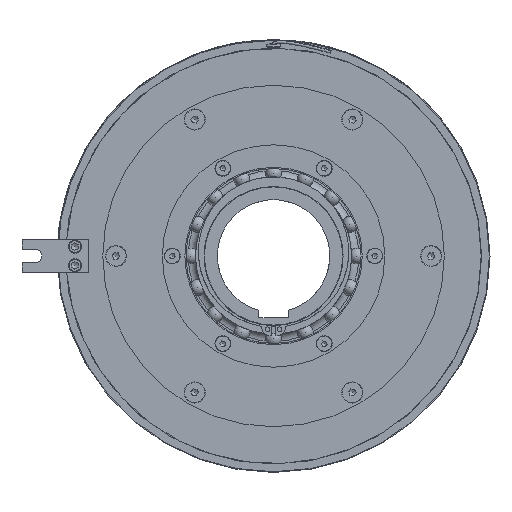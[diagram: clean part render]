
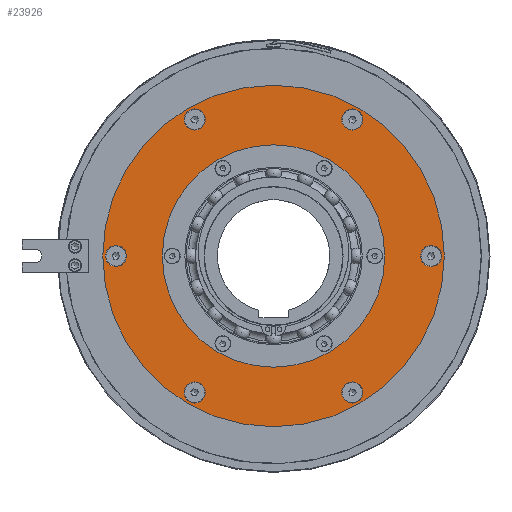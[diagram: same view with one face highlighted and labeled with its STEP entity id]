
A CAD part, left-side view. The second image highlights one B-rep face of the part: STEP entity #23926.
In plain terms, the highlighted planar face has unit normal (-1, 0, 0).
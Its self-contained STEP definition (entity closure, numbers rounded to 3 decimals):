
#791=FACE_BOUND('',#3698,.T.);
#792=FACE_BOUND('',#3699,.T.);
#793=FACE_BOUND('',#3700,.T.);
#794=FACE_BOUND('',#3701,.T.);
#795=FACE_BOUND('',#3702,.T.);
#796=FACE_BOUND('',#3703,.T.);
#797=FACE_BOUND('',#3704,.T.);
#1135=PLANE('',#25994);
#2245=FACE_OUTER_BOUND('',#3697,.T.);
#3697=EDGE_LOOP('',(#18370,#18371));
#3698=EDGE_LOOP('',(#18372,#18373));
#3699=EDGE_LOOP('',(#18374,#18375));
#3700=EDGE_LOOP('',(#18376,#18377));
#3701=EDGE_LOOP('',(#18378,#18379));
#3702=EDGE_LOOP('',(#18380,#18381));
#3703=EDGE_LOOP('',(#18382,#18383));
#3704=EDGE_LOOP('',(#18384,#18385));
#7336=CIRCLE('',#24999,84.);
#7337=CIRCLE('',#25000,84.);
#7958=CIRCLE('',#25992,129.);
#7959=CIRCLE('',#25993,129.);
#7960=CIRCLE('',#25995,8.);
#7961=CIRCLE('',#25996,8.);
#7962=CIRCLE('',#25997,8.);
#7963=CIRCLE('',#25998,8.);
#7964=CIRCLE('',#25999,8.);
#7965=CIRCLE('',#26000,8.);
#7966=CIRCLE('',#26001,8.);
#7967=CIRCLE('',#26002,8.);
#7968=CIRCLE('',#26003,8.);
#7969=CIRCLE('',#26004,8.);
#7970=CIRCLE('',#26005,8.);
#7971=CIRCLE('',#26006,8.);
#9238=VERTEX_POINT('',#36569);
#9239=VERTEX_POINT('',#36571);
#10118=VERTEX_POINT('',#42508);
#10119=VERTEX_POINT('',#42510);
#10120=VERTEX_POINT('',#42514);
#10121=VERTEX_POINT('',#42515);
#10122=VERTEX_POINT('',#42518);
#10123=VERTEX_POINT('',#42519);
#10124=VERTEX_POINT('',#42522);
#10125=VERTEX_POINT('',#42523);
#10126=VERTEX_POINT('',#42526);
#10127=VERTEX_POINT('',#42527);
#10128=VERTEX_POINT('',#42530);
#10129=VERTEX_POINT('',#42531);
#10130=VERTEX_POINT('',#42534);
#10131=VERTEX_POINT('',#42535);
#11919=EDGE_CURVE('',#9239,#9238,#7336,.T.);
#11920=EDGE_CURVE('',#9238,#9239,#7337,.T.);
#13137=EDGE_CURVE('',#10118,#10119,#7958,.T.);
#13138=EDGE_CURVE('',#10119,#10118,#7959,.T.);
#13139=EDGE_CURVE('',#10120,#10121,#7960,.T.);
#13140=EDGE_CURVE('',#10121,#10120,#7961,.T.);
#13141=EDGE_CURVE('',#10122,#10123,#7962,.T.);
#13142=EDGE_CURVE('',#10123,#10122,#7963,.T.);
#13143=EDGE_CURVE('',#10124,#10125,#7964,.T.);
#13144=EDGE_CURVE('',#10125,#10124,#7965,.T.);
#13145=EDGE_CURVE('',#10126,#10127,#7966,.T.);
#13146=EDGE_CURVE('',#10127,#10126,#7967,.T.);
#13147=EDGE_CURVE('',#10128,#10129,#7968,.T.);
#13148=EDGE_CURVE('',#10129,#10128,#7969,.T.);
#13149=EDGE_CURVE('',#10130,#10131,#7970,.T.);
#13150=EDGE_CURVE('',#10131,#10130,#7971,.T.);
#18370=ORIENTED_EDGE('',*,*,#13138,.F.);
#18371=ORIENTED_EDGE('',*,*,#13137,.F.);
#18372=ORIENTED_EDGE('',*,*,#13139,.T.);
#18373=ORIENTED_EDGE('',*,*,#13140,.T.);
#18374=ORIENTED_EDGE('',*,*,#13141,.T.);
#18375=ORIENTED_EDGE('',*,*,#13142,.T.);
#18376=ORIENTED_EDGE('',*,*,#13143,.T.);
#18377=ORIENTED_EDGE('',*,*,#13144,.T.);
#18378=ORIENTED_EDGE('',*,*,#13145,.T.);
#18379=ORIENTED_EDGE('',*,*,#13146,.T.);
#18380=ORIENTED_EDGE('',*,*,#13147,.T.);
#18381=ORIENTED_EDGE('',*,*,#13148,.T.);
#18382=ORIENTED_EDGE('',*,*,#13149,.T.);
#18383=ORIENTED_EDGE('',*,*,#13150,.T.);
#18384=ORIENTED_EDGE('',*,*,#11919,.T.);
#18385=ORIENTED_EDGE('',*,*,#11920,.T.);
#23926=ADVANCED_FACE('',(#2245,#791,#792,#793,#794,#795,#796,#797),#1135,
 .T.);
#24999=AXIS2_PLACEMENT_3D('',#36572,#28562,#28563);
#25000=AXIS2_PLACEMENT_3D('',#36573,#28564,#28565);
#25992=AXIS2_PLACEMENT_3D('',#42511,#30845,#30846);
#25993=AXIS2_PLACEMENT_3D('',#42512,#30847,#30848);
#25994=AXIS2_PLACEMENT_3D('',#42513,#30849,#30850);
#25995=AXIS2_PLACEMENT_3D('',#42516,#30851,#30852);
#25996=AXIS2_PLACEMENT_3D('',#42517,#30853,#30854);
#25997=AXIS2_PLACEMENT_3D('',#42520,#30855,#30856);
#25998=AXIS2_PLACEMENT_3D('',#42521,#30857,#30858);
#25999=AXIS2_PLACEMENT_3D('',#42524,#30859,#30860);
#26000=AXIS2_PLACEMENT_3D('',#42525,#30861,#30862);
#26001=AXIS2_PLACEMENT_3D('',#42528,#30863,#30864);
#26002=AXIS2_PLACEMENT_3D('',#42529,#30865,#30866);
#26003=AXIS2_PLACEMENT_3D('',#42532,#30867,#30868);
#26004=AXIS2_PLACEMENT_3D('',#42533,#30869,#30870);
#26005=AXIS2_PLACEMENT_3D('',#42536,#30871,#30872);
#26006=AXIS2_PLACEMENT_3D('',#42537,#30873,#30874);
#28562=DIRECTION('center_axis',(1.,0.,0.));
#28563=DIRECTION('ref_axis',(0.,1.,0.));
#28564=DIRECTION('center_axis',(1.,0.,0.));
#28565=DIRECTION('ref_axis',(0.,1.,0.));
#30845=DIRECTION('center_axis',(1.,0.,0.));
#30846=DIRECTION('ref_axis',(0.,1.,0.));
#30847=DIRECTION('center_axis',(1.,0.,0.));
#30848=DIRECTION('ref_axis',(0.,1.,0.));
#30849=DIRECTION('center_axis',(-1.,0.,0.));
#30850=DIRECTION('ref_axis',(0.,0.,
1.));
#30851=DIRECTION('center_axis',(1.,0.,0.));
#30852=DIRECTION('ref_axis',(0.,0.,
1.));
#30853=DIRECTION('center_axis',(1.,0.,0.));
#30854=DIRECTION('ref_axis',(0.,0.,
1.));
#30855=DIRECTION('center_axis',(1.,0.,0.));
#30856=DIRECTION('ref_axis',(0.,0.,
1.));
#30857=DIRECTION('center_axis',(1.,0.,0.));
#30858=DIRECTION('ref_axis',(0.,0.,
1.));
#30859=DIRECTION('center_axis',(1.,0.,0.));
#30860=DIRECTION('ref_axis',(0.,0.,
1.));
#30861=DIRECTION('center_axis',(1.,0.,0.));
#30862=DIRECTION('ref_axis',(0.,0.,
1.));
#30863=DIRECTION('center_axis',(1.,0.,0.));
#30864=DIRECTION('ref_axis',(0.,0.,
1.));
#30865=DIRECTION('center_axis',(1.,0.,0.));
#30866=DIRECTION('ref_axis',(0.,0.,
1.));
#30867=DIRECTION('center_axis',(1.,0.,0.));
#30868=DIRECTION('ref_axis',(0.,0.,
1.));
#30869=DIRECTION('center_axis',(1.,0.,0.));
#30870=DIRECTION('ref_axis',(0.,0.,
1.));
#30871=DIRECTION('center_axis',(1.,0.,0.));
#30872=DIRECTION('ref_axis',(0.,0.,
1.));
#30873=DIRECTION('center_axis',(1.,0.,0.));
#30874=DIRECTION('ref_axis',(0.,0.,
1.));
#36569=CARTESIAN_POINT('',(-31.,-84.,0.));
#36571=CARTESIAN_POINT('',(-31.,84.,0.));
#36572=CARTESIAN_POINT('Origin',(-31.,0.,0.));
#36573=CARTESIAN_POINT('Origin',(-31.,0.,0.));
#42508=CARTESIAN_POINT('',(-31.,-129.,0.));
#42510=CARTESIAN_POINT('',(-31.,129.,0.));
#42511=CARTESIAN_POINT('Origin',(-31.,0.,0.));
#42512=CARTESIAN_POINT('Origin',(-31.,0.,0.));
#42513=CARTESIAN_POINT('Origin',(-31.,106.5,0.));
#42514=CARTESIAN_POINT('',(-31.,59.5,111.057));
#42515=CARTESIAN_POINT('',(-31.,59.5,95.057));
#42516=CARTESIAN_POINT('Origin',(-31.,59.5,103.057));
#42517=CARTESIAN_POINT('Origin',(-31.,59.5,103.057));
#42518=CARTESIAN_POINT('',(-31.,-59.5,111.057));
#42519=CARTESIAN_POINT('',(-31.,-59.5,95.057));
#42520=CARTESIAN_POINT('Origin',(-31.,-59.5,103.057));
#42521=CARTESIAN_POINT('Origin',(-31.,-59.5,103.057));
#42522=CARTESIAN_POINT('',(-31.,-119.,8.));
#42523=CARTESIAN_POINT('',(-31.,-119.,-8.));
#42524=CARTESIAN_POINT('Origin',(-31.,-119.,0.));
#42525=CARTESIAN_POINT('Origin',(-31.,-119.,0.));
#42526=CARTESIAN_POINT('',(-31.,-59.5,-95.057));
#42527=CARTESIAN_POINT('',(-31.,-59.5,-111.057));
#42528=CARTESIAN_POINT('Origin',(-31.,-59.5,-103.057));
#42529=CARTESIAN_POINT('Origin',(-31.,-59.5,-103.057));
#42530=CARTESIAN_POINT('',(-31.,59.5,-95.057));
#42531=CARTESIAN_POINT('',(-31.,59.5,-111.057));
#42532=CARTESIAN_POINT('Origin',(-31.,59.5,-103.057));
#42533=CARTESIAN_POINT('Origin',(-31.,59.5,-103.057));
#42534=CARTESIAN_POINT('',(-31.,119.,8.));
#42535=CARTESIAN_POINT('',(-31.,119.,-8.));
#42536=CARTESIAN_POINT('Origin',(-31.,119.,0.));
#42537=CARTESIAN_POINT('Origin',(-31.,119.,0.));
